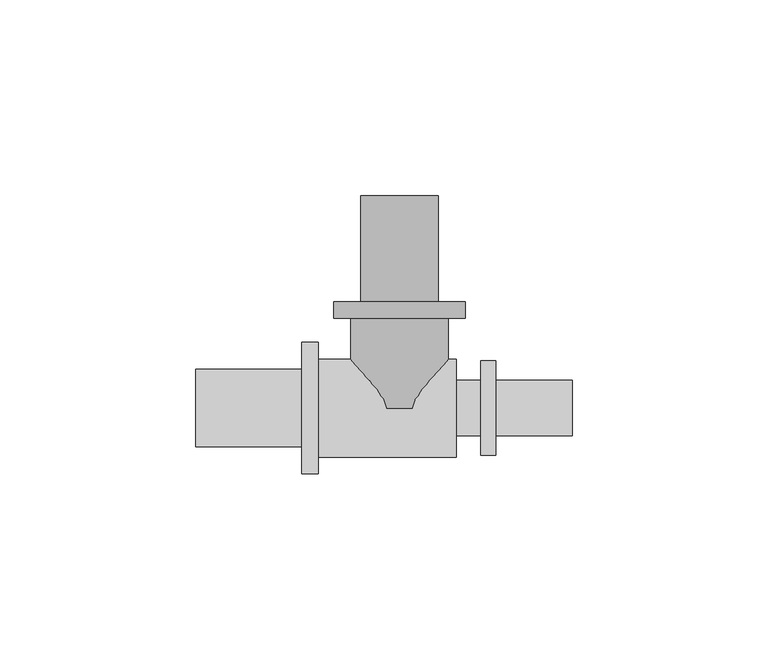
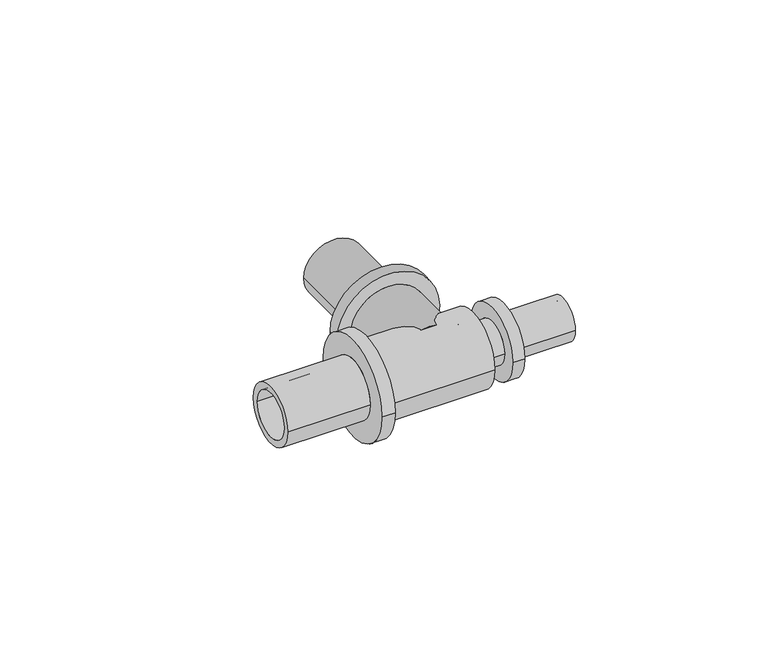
"""IFC4 building model written with IfcOpenShell, lengths in millimetres: pipe fitting geometry, RAUTITAN_T-piece_LX : RTI LX T DN."""

from ifc_helpers import new_model, si_unit, frame, origin, place, context, project, spatial, polyline, circle_curve, source, transform, mapped, element, save
from ifc_brep_helpers import plane_surface, cylinder_surface, revolved_surface, advanced_brep


def pipe_fitting_244e17d7(model_context):
    return source(origin(), model_context, "Body", "AdvancedBrep", [
        advanced_brep(
        [(-12.5, 23.0, 0.0), (12.5, 23.0, 0.0), (12.5, 0.0, 0.0), (-12.5, 0.0, 0.0), (-16.8, 27.2, 0.0), (16.8, 27.2, 0.0), (16.8, 23.0, 0.0), (-16.8, 23.0, 0.0), (-9.9, 54.2, 0.0), (9.9, 54.2, 0.0), (9.9, 27.2, 0.0), (-9.9, 27.2, 0.0), (-7.6, 0.0, 0.0), (7.6, 0.0, 0.0), (7.6, 54.2, 0.0), (-7.6, 54.2, 0.0)],
        [
            (0, 1, circle_curve(frame((0.0, 23.0, 0.0), z_axis=(0.0, -1.0, 0.0), x_axis=(1.0, 0.0, 0.0)), 12.5)),
            (1, 2),
            (2, 3, circle_curve(frame((0.0, 0.0, 0.0), z_axis=(0.0, 1.0, 0.0), x_axis=(1.0, 0.0, 0.0)), 12.5)),
            (3, 0),
            (4, 5, circle_curve(frame((0.0, 27.2, 0.0), z_axis=(0.0, -1.0, 0.0), x_axis=(1.0, 0.0, 0.0)), 16.8)),
            (5, 6),
            (6, 7, circle_curve(frame((0.0, 23.0, 0.0), z_axis=(0.0, 1.0, 0.0), x_axis=(1.0, 0.0, 0.0)), 16.8)),
            (7, 4),
            (8, 9, circle_curve(frame((0.0, 54.2, 0.0), z_axis=(0.0, -1.0, 0.0), x_axis=(1.0, 0.0, 0.0)), 9.9)),
            (9, 10),
            (10, 11, circle_curve(frame((0.0, 27.2, 0.0), z_axis=(0.0, 1.0, 0.0), x_axis=(1.0, 0.0, 0.0)), 9.9)),
            (11, 8),
            (12, 13, circle_curve(frame((0.0, 0.0, 0.0), z_axis=(0.0, -1.0, 0.0), x_axis=(1.0, 0.0, 0.0)), 7.6)),
            (13, 14),
            (14, 15, circle_curve(frame((0.0, 54.2, 0.0), z_axis=(0.0, 1.0, 0.0), x_axis=(1.0, 0.0, 0.0)), 7.6)),
            (15, 12),
            (1, 0, circle_curve(frame((0.0, 23.0, 0.0), z_axis=(0.0, -1.0, 0.0), x_axis=(-1.0, 0.0, 0.0)), 12.5)),
            (3, 2, circle_curve(frame((0.0, 0.0, 0.0), z_axis=(0.0, 1.0, 0.0), x_axis=(-1.0, 0.0, 0.0)), 12.5)),
            (6, 7, circle_curve(frame((0.0, 23.0, 0.0), z_axis=(0.0, -1.0, 0.0), x_axis=(-1.0, 0.0, 0.0)), 16.8)),
            (5, 4, circle_curve(frame((0.0, 27.2, 0.0), z_axis=(0.0, -1.0, 0.0), x_axis=(-1.0, 0.0, 0.0)), 16.8)),
            (10, 11, circle_curve(frame((0.0, 27.2, 0.0), z_axis=(0.0, -1.0, 0.0), x_axis=(-1.0, 0.0, 0.0)), 9.9)),
            (9, 8, circle_curve(frame((0.0, 54.2, 0.0), z_axis=(0.0, -1.0, 0.0), x_axis=(-1.0, 0.0, 0.0)), 9.9)),
            (14, 15, circle_curve(frame((0.0, 54.2, 0.0), z_axis=(0.0, -1.0, 0.0), x_axis=(-1.0, 0.0, 0.0)), 7.6)),
            (13, 12, circle_curve(frame((0.0, 0.0, 0.0), z_axis=(0.0, -1.0, 0.0), x_axis=(-1.0, 0.0, 0.0)), 7.6)),
        ],
        [
            cylinder_surface(frame((0.0, 0.0, 0.0), z_axis=(0.0, 1.0, 0.0), x_axis=(1.0, 0.0, 0.0)), 12.5),
            cylinder_surface(frame((0.0, 0.0, 0.0), z_axis=(0.0, 1.0, 0.0), x_axis=(1.0, 0.0, 0.0)), 16.8),
            cylinder_surface(frame((0.0, 0.0, 0.0), z_axis=(0.0, 1.0, 0.0), x_axis=(1.0, 0.0, 0.0)), 9.9),
            revolved_surface(polyline([(7.6, 54.2, 0.0), (7.6, 0.0, 0.0)]), (0.0, 0.0, 0.0), (0.0, 1.0, 0.0)),
            cylinder_surface(frame((0.0, 0.0, 0.0), z_axis=(0.0, 1.0, 0.0), x_axis=(-1.0, 0.0, 0.0)), 12.5),
            plane_surface(frame((0.0, 23.0, 0.0), z_axis=(0.0, -1.0, 0.0), x_axis=(-1.0, 0.0, 0.0))),
            cylinder_surface(frame((0.0, 0.0, 0.0), z_axis=(0.0, 1.0, 0.0), x_axis=(-1.0, 0.0, 0.0)), 16.8),
            plane_surface(frame((0.0, 27.2, 0.0), z_axis=(0.0, 1.0, 0.0), x_axis=(-1.0, 0.0, 0.0))),
            cylinder_surface(frame((0.0, 0.0, 0.0), z_axis=(0.0, 1.0, 0.0), x_axis=(-1.0, 0.0, 0.0)), 9.9),
            plane_surface(frame((0.0, 54.2, 0.0), z_axis=(0.0, 1.0, 0.0), x_axis=(-1.0, 0.0, 0.0))),
            revolved_surface(polyline([(-7.6, 54.2, 0.0), (-7.6, 0.0, 0.0)]), (0.0, 0.0, 0.0), (0.0, 1.0, 0.0)),
            plane_surface(frame((0.0, 0.0, 0.0), z_axis=(0.0, -1.0, 0.0), x_axis=(-1.0, 0.0, 0.0))),
        ],
        [
            (0, [[1, 2, 3, 4]]),
            (1, [[5, 6, 7, 8]]),
            (2, [[9, 10, 11, 12]]),
            (3, [[13, 14, 15, 16]]),
            (4, [[17, -4, 18, -2]]),
            (5, [[19, -7], [-17, -1]]),
            (6, [[20, -8, -19, -6]]),
            (7, [[-20, -5], [21, -11]]),
            (8, [[22, -12, -21, -10]]),
            (9, [[-22, -9], [23, -15]]),
            (10, [[24, -16, -23, -14]]),
            (11, [[-18, -3], [-24, -13]]),
        ],
    ),
        advanced_brep(
        [(-52.0, 7.6, 0.0), (-52.0, -7.6, 0.0), (12.5, -7.6, 0.0), (12.5, 7.6, 0.0), (14.5, 12.5, 0.0), (14.5, -12.5, 0.0), (-20.8, -12.5, 0.0), (-20.8, 12.5, 0.0), (-20.8, 16.8, 0.0), (-20.8, -16.8, 0.0), (-25.0, -16.8, 0.0), (-25.0, 16.8, 0.0), (-25.0, 9.9, 0.0), (-25.0, -9.9, 0.0), (-52.0, -9.9, 0.0), (-52.0, 9.9, 0.0), (12.5, 5.1, 0.0), (12.5, -5.1, 0.0), (44.1, -5.1, 0.0), (44.1, 5.1, 0.0), (44.1, 7.1, 0.0), (44.1, -7.1, 0.0), (24.6, -7.1, 0.0), (24.6, 7.1, 0.0), (24.6, 12.1, 0.0), (24.6, -12.1, 0.0), (20.8, -12.1, 0.0), (20.8, 12.1, 0.0), (20.8, 7.1, 0.0), (20.8, -7.1, 0.0), (14.5, -7.1, 0.0), (14.5, 7.1, 0.0)],
        [
            (0, 1, circle_curve(frame((-52.0, 0.0, 0.0), z_axis=(-1.0, 0.0, 0.0), x_axis=(0.0, -1.0, 0.0)), 7.6)),
            (1, 2),
            (2, 3, circle_curve(frame((12.5, 0.0, 0.0), z_axis=(1.0, 0.0, 0.0), x_axis=(0.0, -1.0, 0.0)), 7.6)),
            (3, 0),
            (4, 5, circle_curve(frame((14.5, 0.0, 0.0), z_axis=(-1.0, 0.0, 0.0), x_axis=(0.0, -1.0, 0.0)), 12.5)),
            (5, 6),
            (6, 7, circle_curve(frame((-20.8, 0.0, 0.0), z_axis=(1.0, 0.0, 0.0), x_axis=(0.0, -1.0, 0.0)), 12.5)),
            (7, 4),
            (1, 0, circle_curve(frame((-52.0, 0.0, 0.0), z_axis=(-1.0, 0.0, 0.0), x_axis=(0.0, 1.0, 0.0)), 7.6)),
            (3, 2, circle_curve(frame((12.5, 0.0, 0.0), z_axis=(1.0, 0.0, 0.0), x_axis=(0.0, 1.0, 0.0)), 7.6)),
            (5, 4, circle_curve(frame((14.5, 0.0, 0.0), z_axis=(-1.0, 0.0, 0.0), x_axis=(0.0, 1.0, 0.0)), 12.5)),
            (7, 6, circle_curve(frame((-20.8, 0.0, 0.0), z_axis=(1.0, 0.0, 0.0), x_axis=(0.0, 1.0, 0.0)), 12.5)),
            (8, 9, circle_curve(frame((-20.8, 0.0, 0.0), z_axis=(-1.0, 0.0, 0.0), x_axis=(0.0, -1.0, 0.0)), 16.8)),
            (9, 10),
            (10, 11, circle_curve(frame((-25.0, 0.0, 0.0), z_axis=(1.0, 0.0, 0.0), x_axis=(0.0, -1.0, 0.0)), 16.8)),
            (11, 8),
            (12, 13, circle_curve(frame((-25.0, 0.0, 0.0), z_axis=(-1.0, 0.0, 0.0), x_axis=(0.0, -1.0, 0.0)), 9.9)),
            (13, 14),
            (14, 15, circle_curve(frame((-52.0, 0.0, 0.0), z_axis=(1.0, 0.0, 0.0), x_axis=(0.0, -1.0, 0.0)), 9.9)),
            (15, 12),
            (8, 9, circle_curve(frame((-20.8, 0.0, 0.0), z_axis=(1.0, 0.0, 0.0), x_axis=(0.0, 1.0, 0.0)), 16.8)),
            (11, 10, circle_curve(frame((-25.0, 0.0, 0.0), z_axis=(1.0, 0.0, 0.0), x_axis=(0.0, 1.0, 0.0)), 16.8)),
            (12, 13, circle_curve(frame((-25.0, 0.0, 0.0), z_axis=(1.0, 0.0, 0.0), x_axis=(0.0, 1.0, 0.0)), 9.9)),
            (15, 14, circle_curve(frame((-52.0, 0.0, 0.0), z_axis=(1.0, 0.0, 0.0), x_axis=(0.0, 1.0, 0.0)), 9.9)),
            (16, 17, circle_curve(frame((12.5, 0.0, 0.0), z_axis=(-1.0, 0.0, 0.0), x_axis=(0.0, -1.0, 0.0)), 5.1)),
            (17, 18),
            (18, 19, circle_curve(frame((44.1, 0.0, 0.0), z_axis=(1.0, 0.0, 0.0), x_axis=(0.0, -1.0, 0.0)), 5.1)),
            (19, 16),
            (20, 21, circle_curve(frame((44.1, 0.0, 0.0), z_axis=(-1.0, 0.0, 0.0), x_axis=(0.0, -1.0, 0.0)), 7.1)),
            (21, 22),
            (22, 23, circle_curve(frame((24.6, 0.0, 0.0), z_axis=(1.0, 0.0, 0.0), x_axis=(0.0, -1.0, 0.0)), 7.1)),
            (23, 20),
            (24, 25, circle_curve(frame((24.6, 0.0, 0.0), z_axis=(-1.0, 0.0, 0.0), x_axis=(0.0, -1.0, 0.0)), 12.1)),
            (25, 26),
            (26, 27, circle_curve(frame((20.8, 0.0, 0.0), z_axis=(1.0, 0.0, 0.0), x_axis=(0.0, -1.0, 0.0)), 12.1)),
            (27, 24),
            (28, 29, circle_curve(frame((20.8, 0.0, 0.0), z_axis=(-1.0, 0.0, 0.0), x_axis=(0.0, -1.0, 0.0)), 7.1)),
            (29, 30),
            (30, 31, circle_curve(frame((14.5, 0.0, 0.0), z_axis=(1.0, 0.0, 0.0), x_axis=(0.0, -1.0, 0.0)), 7.1)),
            (31, 28),
            (16, 17, circle_curve(frame((12.5, 0.0, 0.0), z_axis=(1.0, 0.0, 0.0), x_axis=(0.0, 1.0, 0.0)), 5.1)),
            (19, 18, circle_curve(frame((44.1, 0.0, 0.0), z_axis=(1.0, 0.0, 0.0), x_axis=(0.0, 1.0, 0.0)), 5.1)),
            (20, 21, circle_curve(frame((44.1, 0.0, 0.0), z_axis=(1.0, 0.0, 0.0), x_axis=(0.0, 1.0, 0.0)), 7.1)),
            (23, 22, circle_curve(frame((24.6, 0.0, 0.0), z_axis=(1.0, 0.0, 0.0), x_axis=(0.0, 1.0, 0.0)), 7.1)),
            (24, 25, circle_curve(frame((24.6, 0.0, 0.0), z_axis=(1.0, 0.0, 0.0), x_axis=(0.0, 1.0, 0.0)), 12.1)),
            (27, 26, circle_curve(frame((20.8, 0.0, 0.0), z_axis=(1.0, 0.0, 0.0), x_axis=(0.0, 1.0, 0.0)), 12.1)),
            (28, 29, circle_curve(frame((20.8, 0.0, 0.0), z_axis=(1.0, 0.0, 0.0), x_axis=(0.0, 1.0, 0.0)), 7.1)),
            (31, 30, circle_curve(frame((14.5, 0.0, 0.0), z_axis=(1.0, 0.0, 0.0), x_axis=(0.0, 1.0, 0.0)), 7.1)),
        ],
        [
            revolved_surface(polyline([(12.5, -7.6, 0.0), (-52.0, -7.6, 0.0)]), (0.0, 0.0, 0.0), (1.0, 0.0, 0.0)),
            cylinder_surface(frame((0.0, 0.0, 0.0), z_axis=(1.0, 0.0, 0.0), x_axis=(0.0, -1.0, 0.0)), 12.5),
            revolved_surface(polyline([(12.5, 7.6, 0.0), (-52.0, 7.6, 0.0)]), (0.0, 0.0, 0.0), (1.0, 0.0, 0.0)),
            cylinder_surface(frame((0.0, 0.0, 0.0), z_axis=(1.0, 0.0, 0.0), x_axis=(0.0, 1.0, 0.0)), 12.5),
            cylinder_surface(frame((0.0, 0.0, 0.0), z_axis=(1.0, 0.0, 0.0), x_axis=(0.0, -1.0, 0.0)), 16.8),
            cylinder_surface(frame((0.0, 0.0, 0.0), z_axis=(1.0, 0.0, 0.0), x_axis=(0.0, -1.0, 0.0)), 9.9),
            plane_surface(frame((-20.8, 0.0, 0.0), z_axis=(1.0, 0.0, 0.0), x_axis=(0.0, 1.0, 0.0))),
            cylinder_surface(frame((0.0, 0.0, 0.0), z_axis=(1.0, 0.0, 0.0), x_axis=(0.0, 1.0, 0.0)), 16.8),
            plane_surface(frame((-25.0, 0.0, 0.0), z_axis=(-1.0, 0.0, 0.0), x_axis=(0.0, 1.0, 0.0))),
            cylinder_surface(frame((0.0, 0.0, 0.0), z_axis=(1.0, 0.0, 0.0), x_axis=(0.0, 1.0, 0.0)), 9.9),
            plane_surface(frame((-52.0, 0.0, 0.0), z_axis=(-1.0, 0.0, 0.0), x_axis=(0.0, 1.0, 0.0))),
            revolved_surface(polyline([(44.1, -5.1, 0.0), (12.5, -5.1, 0.0)]), (0.0, 0.0, 0.0), (1.0, 0.0, 0.0)),
            cylinder_surface(frame((0.0, 0.0, 0.0), z_axis=(1.0, 0.0, 0.0), x_axis=(0.0, -1.0, 0.0)), 7.1),
            cylinder_surface(frame((0.0, 0.0, 0.0), z_axis=(1.0, 0.0, 0.0), x_axis=(0.0, -1.0, 0.0)), 12.1),
            plane_surface(frame((12.5, 0.0, 0.0), z_axis=(-1.0, 0.0, 0.0), x_axis=(0.0, 1.0, 0.0))),
            revolved_surface(polyline([(44.1, 5.1, 0.0), (12.5, 5.1, 0.0)]), (0.0, 0.0, 0.0), (1.0, 0.0, 0.0)),
            plane_surface(frame((44.1, 0.0, 0.0), z_axis=(1.0, 0.0, 0.0), x_axis=(0.0, 1.0, 0.0))),
            cylinder_surface(frame((0.0, 0.0, 0.0), z_axis=(1.0, 0.0, 0.0), x_axis=(0.0, 1.0, 0.0)), 7.1),
            plane_surface(frame((24.6, 0.0, 0.0), z_axis=(1.0, 0.0, 0.0), x_axis=(0.0, 1.0, 0.0))),
            cylinder_surface(frame((0.0, 0.0, 0.0), z_axis=(1.0, 0.0, 0.0), x_axis=(0.0, 1.0, 0.0)), 12.1),
            plane_surface(frame((20.8, 0.0, 0.0), z_axis=(-1.0, 0.0, 0.0), x_axis=(0.0, 1.0, 0.0))),
            plane_surface(frame((14.5, 0.0, 0.0), z_axis=(1.0, 0.0, 0.0), x_axis=(0.0, 1.0, 0.0))),
        ],
        [
            (0, [[1, 2, 3, 4]]),
            (1, [[5, 6, 7, 8]]),
            (2, [[9, -4, 10, -2]]),
            (3, [[11, -8, 12, -6]]),
            (4, [[13, 14, 15, 16]]),
            (5, [[17, 18, 19, 20]]),
            (6, [[21, -13], [-12, -7]]),
            (7, [[-21, -16, 22, -14]]),
            (8, [[-22, -15], [23, -17]]),
            (9, [[-23, -20, 24, -18]]),
            (10, [[-24, -19], [-9, -1]]),
            (11, [[25, 26, 27, 28]]),
            (12, [[29, 30, 31, 32]]),
            (13, [[33, 34, 35, 36]]),
            (12, [[37, 38, 39, 40]]),
            (14, [[-10, -3], [41, -25]]),
            (15, [[-41, -28, 42, -26]]),
            (16, [[43, -29], [-42, -27]]),
            (17, [[-43, -32, 44, -30]]),
            (18, [[45, -33], [-44, -31]]),
            (19, [[-45, -36, 46, -34]]),
            (20, [[-46, -35], [47, -37]]),
            (17, [[-47, -40, 48, -38]]),
            (21, [[-11, -5], [-48, -39]]),
        ],
    ),
    ])


if __name__ == "__main__":
    model = new_model("IFC4")
    model_context = context("Model", 3, world=origin())
    ifc_project = project(units=[si_unit("LENGTHUNIT", "METRE", prefix="MILLI")], contexts=[model_context])
    site = spatial("IfcSite", under=ifc_project)
    building = spatial("IfcBuilding", under=site)
    placement = place(None, origin())
    pipe_fitting_shape = pipe_fitting_244e17d7(model_context)
    element("IfcPipeFitting", 1, ObjectType="RAUTITAN_T-piece_LX : RTI LX T DN", at=placement, inside=building, context=model_context, shape_type="MappedRepresentation", body=[
        mapped(pipe_fitting_shape, transform((0.0, 0.0, 0.0), x_axis=(1.0, 0.0, 0.0), y_axis=(0.0, 1.0, 0.0), z_axis=(0.0, 0.0, 1.0))),
    ])
    save(model, "model.ifc")
